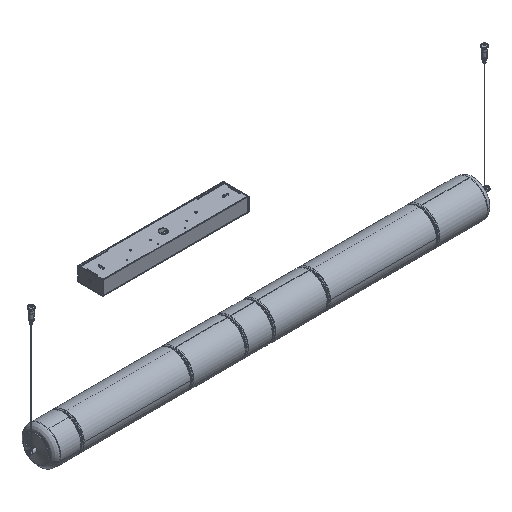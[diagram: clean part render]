
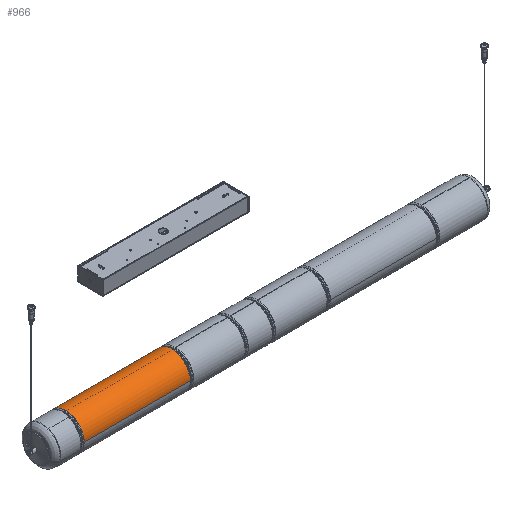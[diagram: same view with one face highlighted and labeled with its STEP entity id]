
A CAD part, isometric view. The second image highlights one B-rep face of the part: STEP entity #966.
In plain terms, the highlighted cylindrical face has radius 50 mm (diameter 100 mm), a partial arc.
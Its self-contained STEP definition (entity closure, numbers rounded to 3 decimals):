
#966=ADVANCED_FACE('',(#2004),#16169,.T.);
#2004=FACE_OUTER_BOUND('',#3073,.T.);
#3073=EDGE_LOOP('',(#4777,#4778,#4779,#4780));
#4777=ORIENTED_EDGE('',*,*,#9449,.T.);
#4778=ORIENTED_EDGE('',*,*,#9419,.F.);
#4779=ORIENTED_EDGE('',*,*,#9428,.F.);
#4780=ORIENTED_EDGE('',*,*,#9426,.T.);
#9419=EDGE_CURVE('',#14256,#14258,#11760,.T.);
#9426=EDGE_CURVE('',#14263,#14264,#11767,.T.);
#9428=EDGE_CURVE('',#14263,#14256,#13027,.T.);
#9449=EDGE_CURVE('',#14264,#14258,#13032,.T.);
#11760=(
BOUNDED_CURVE()
B_SPLINE_CURVE(2,(#20473,#20474,#20475,#20476,#20477),.UNSPECIFIED.,.F.,
 .F.)
B_SPLINE_CURVE_WITH_KNOTS((3,2,3),(0.,72.257,144.513),
 .UNSPECIFIED.)
CURVE()
GEOMETRIC_REPRESENTATION_ITEM()
RATIONAL_B_SPLINE_CURVE((1.,0.707,1.,0.707,1.))
REPRESENTATION_ITEM('')
);
#11767=(
BOUNDED_CURVE()
B_SPLINE_CURVE(2,(#20500,#20501,#20502,#20503,#20504),.UNSPECIFIED.,.F.,
 .F.)
B_SPLINE_CURVE_WITH_KNOTS((3,2,3),(78.54,157.08,235.619),
 .UNSPECIFIED.)
CURVE()
GEOMETRIC_REPRESENTATION_ITEM()
RATIONAL_B_SPLINE_CURVE((1.,0.707,1.,0.707,1.))
REPRESENTATION_ITEM('')
);
#13027=B_SPLINE_CURVE_WITH_KNOTS('',1,(#20508,#20509),.UNSPECIFIED.,.F.,
 .F.,(2,2),(29.32,321.32),.UNSPECIFIED.);
#13032=B_SPLINE_CURVE_WITH_KNOTS('',1,(#20574,#20575),.UNSPECIFIED.,.F.,
 .F.,(2,2),(29.32,321.32),.UNSPECIFIED.);
#14256=VERTEX_POINT('',#20276);
#14258=VERTEX_POINT('',#20278);
#14263=VERTEX_POINT('',#20283);
#14264=VERTEX_POINT('',#20284);
#16169=CYLINDRICAL_SURFACE('',#16630,50.);
#16630=AXIS2_PLACEMENT_3D('',#19688,#17428,$);
#17428=DIRECTION('',(1.,0.,0.));
#19688=CARTESIAN_POINT('',(-121.,0.,-343.5));
#20276=CARTESIAN_POINT('',(25.,50.,-343.5));
#20278=CARTESIAN_POINT('',(25.,-50.,-343.5));
#20283=CARTESIAN_POINT('',(-267.,50.,-343.5));
#20284=CARTESIAN_POINT('',(-267.,-50.,-343.5));
#20473=CARTESIAN_POINT('',(25.,50.,-343.5));
#20474=CARTESIAN_POINT('',(25.,50.,-293.5));
#20475=CARTESIAN_POINT('',(25.,0.,-293.5));
#20476=CARTESIAN_POINT('',(25.,-50.,-293.5));
#20477=CARTESIAN_POINT('',(25.,-50.,-343.5));
#20500=CARTESIAN_POINT('',(-267.,50.,-343.5));
#20501=CARTESIAN_POINT('',(-267.,50.,-293.5));
#20502=CARTESIAN_POINT('',(-267.,0.,-293.5));
#20503=CARTESIAN_POINT('',(-267.,-50.,-293.5));
#20504=CARTESIAN_POINT('',(-267.,-50.,-343.5));
#20508=CARTESIAN_POINT('',(-267.,50.,-343.5));
#20509=CARTESIAN_POINT('',(25.,50.,-343.5));
#20574=CARTESIAN_POINT('',(-267.,-50.,-343.5));
#20575=CARTESIAN_POINT('',(25.,-50.,-343.5));
